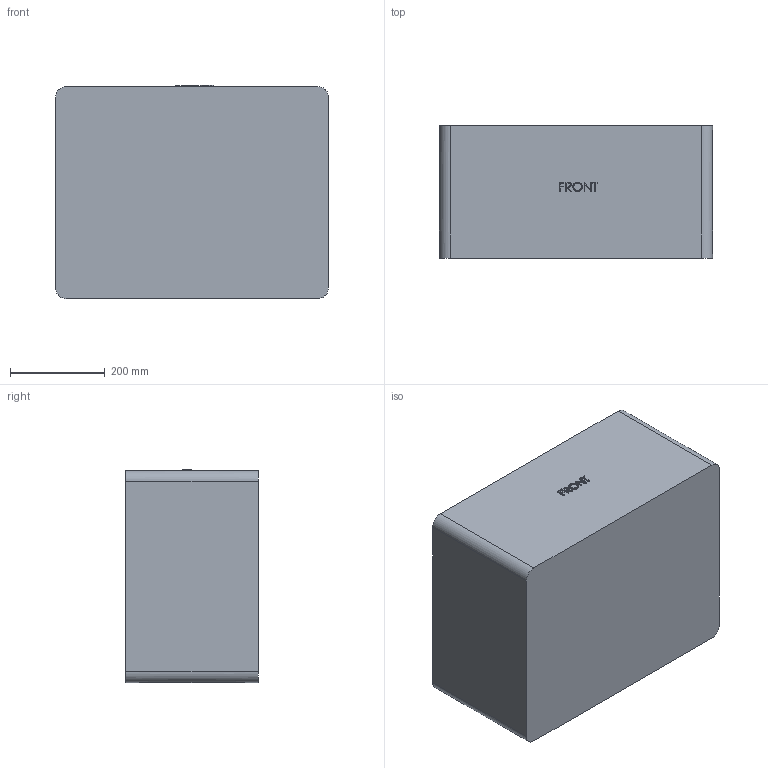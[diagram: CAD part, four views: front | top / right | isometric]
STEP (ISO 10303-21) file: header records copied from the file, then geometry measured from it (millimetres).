
FILE_DESCRIPTION (( 'STEP AP203' ), '1' );
FILE_NAME ('1620bot.STEP', '2005-05-06T22:59:49', ( ' ' ), ( ' ' ), 'SwSTEP 2.0', 'SolidWorks 2004286', '' );
FILE_SCHEMA (( 'CONFIG_CONTROL_DESIGN' ));
Products named in the file (1): 1620bot
Bounding box: 575.56 x 279.4 x 449.32 mm (x, y, z)
Volume: 8746589.9 mm3; surface area: 1556047.4 mm2
Topology: 1 solids, 1 shells, 768 faces, 1842 edges, 1116 vertices
Faces by surface type: bspline 333, cylinder 232, plane 193, cone 10
Entity records: 98565 total; most frequent: CARTESIAN_POINT 84311, ORIENTED_EDGE 3676, EDGE_CURVE 1838, DIRECTION 1830, VERTEX_POINT 1114, B_SPLINE_CURVE_WITH_KNOTS 879, EDGE_LOOP 810, ADVANCED_FACE 768
